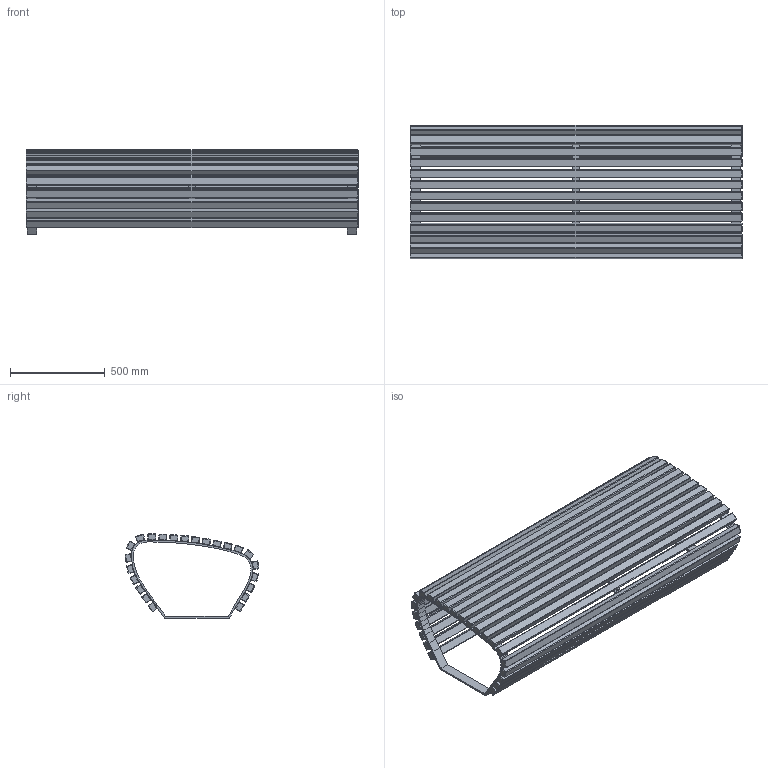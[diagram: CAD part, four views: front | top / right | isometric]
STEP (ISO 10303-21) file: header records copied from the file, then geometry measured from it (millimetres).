
FILE_DESCRIPTION(/* description */ (''),/* implementation_level */ '2;1');
FILE_NAME(/* name */ 'ENV02-B3_UAP_ENVIRON_Bench_3D',/* time_stamp */ '2018-01-23T20:46:12-05:00',/* author */ (''),/* organization */ (''),/* preprocessor_version */ 'ST-DEVELOPER v15',/* originating_system */ '',/* authorisation */ '');
FILE_SCHEMA (('AUTOMOTIVE_DESIGN'));
Length unit declared in the file: millimetre
Products named in the file (1): Document
Bounding box: 1750 x 704.29 x 443.81 mm (x, y, z)
Volume: 56016526.6 mm3; surface area: 6357184 mm2
Topology: 31 solids, 31 shells, 970 faces, 2356 edges, 1264 vertices
Faces by surface type: plane 492, bspline 478
Entity records: 24374 total; most frequent: CARTESIAN_POINT 10206, ORIENTED_EDGE 4344, EDGE_CURVE 2172, B_SPLINE_CURVE_WITH_KNOTS 1620, VERTEX_POINT 1264, ADVANCED_FACE 970, FACE_OUTER_BOUND 970, EDGE_LOOP 970
